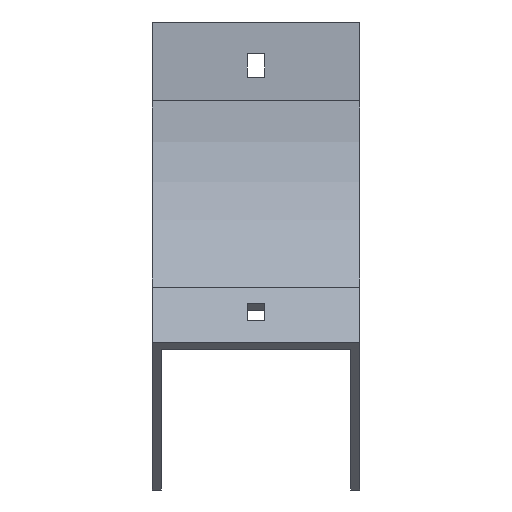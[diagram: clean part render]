
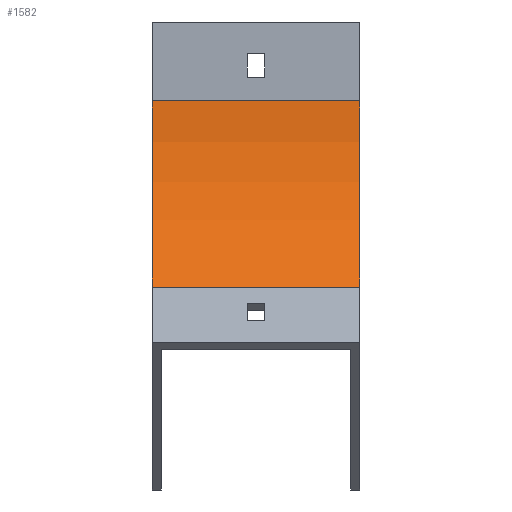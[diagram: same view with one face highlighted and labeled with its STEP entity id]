
A CAD part, front view. The second image highlights one B-rep face of the part: STEP entity #1582.
In plain terms, the highlighted cylindrical face has radius 100 mm (diameter 200 mm), a partial arc.
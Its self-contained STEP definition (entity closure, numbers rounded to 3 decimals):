
#195 = CARTESIAN_POINT ( 'NONE',  ( -39.5, -100., -30. ) ) ;
#198 = AXIS2_PLACEMENT_3D ( 'NONE', #1816, #906, #1027 ) ;
#311 = CARTESIAN_POINT ( 'NONE',  ( 39.5, -29.289, -100.711 ) ) ;
#352 = ORIENTED_EDGE ( 'NONE', *, *, #1892, .F. ) ;
#377 = CARTESIAN_POINT ( 'NONE',  ( 39.5, 0., -30. ) ) ;
#401 = CIRCLE ( 'NONE', #1306, 100. ) ;
#453 = CARTESIAN_POINT ( 'NONE',  ( 39.5, 0., -30. ) ) ;
#496 = DIRECTION ( 'NONE',  ( -1., 0., 0. ) ) ;
#614 = CYLINDRICAL_SURFACE ( 'NONE', #198, 100. ) ;
#655 = VERTEX_POINT ( 'NONE', #1239 ) ;
#717 = CARTESIAN_POINT ( 'NONE',  ( 39.5, -100., -30. ) ) ;
#762 = DIRECTION ( 'NONE',  ( -1., 0., 0. ) ) ;
#798 = LINE ( 'NONE', #1531, #1184 ) ;
#804 = DIRECTION ( 'NONE',  ( 0., 0., 1. ) ) ;
#892 = LINE ( 'NONE', #453, #1844 ) ;
#898 = DIRECTION ( 'NONE',  ( -1., 0., 0. ) ) ;
#906 = DIRECTION ( 'NONE',  ( -1., 0., 0. ) ) ;
#956 = EDGE_CURVE ( 'NONE', #1260, #1067, #892, .T. ) ;
#985 = FACE_OUTER_BOUND ( 'NONE', #998, .T. ) ;
#998 = EDGE_LOOP ( 'NONE', ( #1944, #352, #1074, #1329 ) ) ;
#1026 = EDGE_CURVE ( 'NONE', #1260, #1662, #401, .T. ) ;
#1027 = DIRECTION ( 'NONE',  ( 0., 0., 1. ) ) ;
#1057 = AXIS2_PLACEMENT_3D ( 'NONE', #195, #762, #804 ) ;
#1067 = VERTEX_POINT ( 'NONE', #1544 ) ;
#1074 = ORIENTED_EDGE ( 'NONE', *, *, #1026, .F. ) ;
#1166 = EDGE_CURVE ( 'NONE', #1067, #655, #1868, .T. ) ;
#1184 = VECTOR ( 'NONE', #496, 1000. ) ;
#1239 = CARTESIAN_POINT ( 'NONE',  ( -39.5, -29.289, -100.711 ) ) ;
#1260 = VERTEX_POINT ( 'NONE', #377 ) ;
#1306 = AXIS2_PLACEMENT_3D ( 'NONE', #717, #898, #1503 ) ;
#1329 = ORIENTED_EDGE ( 'NONE', *, *, #956, .T. ) ;
#1353 = DIRECTION ( 'NONE',  ( -1., 0., 0. ) ) ;
#1503 = DIRECTION ( 'NONE',  ( 0., 0., 1. ) ) ;
#1531 = CARTESIAN_POINT ( 'NONE',  ( 39.5, -29.289, -100.711 ) ) ;
#1544 = CARTESIAN_POINT ( 'NONE',  ( -39.5, 0., -30. ) ) ;
#1582 = ADVANCED_FACE ( 'NONE', ( #985 ), #614, .F. ) ;
#1662 = VERTEX_POINT ( 'NONE', #311 ) ;
#1816 = CARTESIAN_POINT ( 'NONE',  ( 39.5, -100., -30. ) ) ;
#1844 = VECTOR ( 'NONE', #1353, 1000. ) ;
#1868 = CIRCLE ( 'NONE', #1057, 100. ) ;
#1892 = EDGE_CURVE ( 'NONE', #1662, #655, #798, .T. ) ;
#1944 = ORIENTED_EDGE ( 'NONE', *, *, #1166, .T. ) ;
